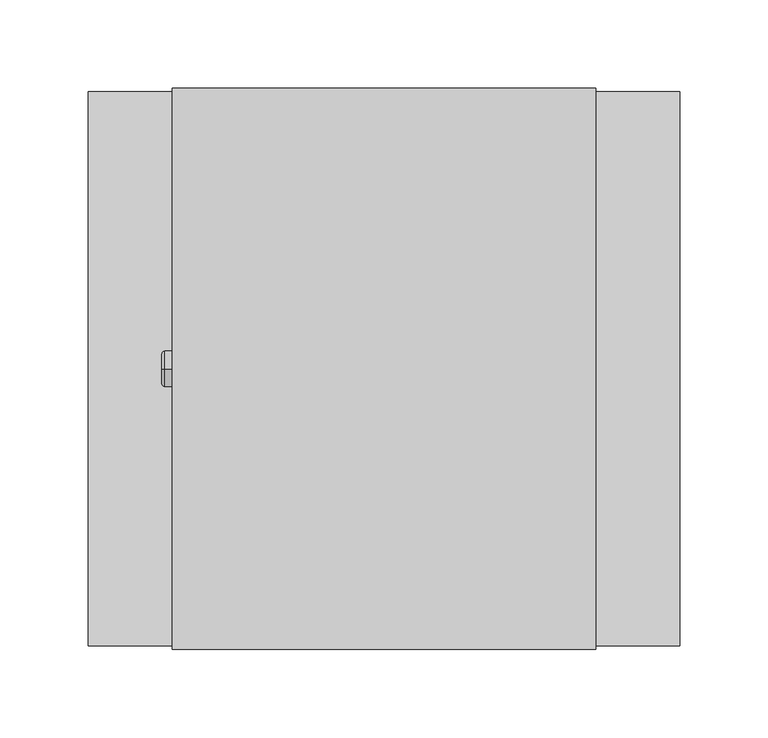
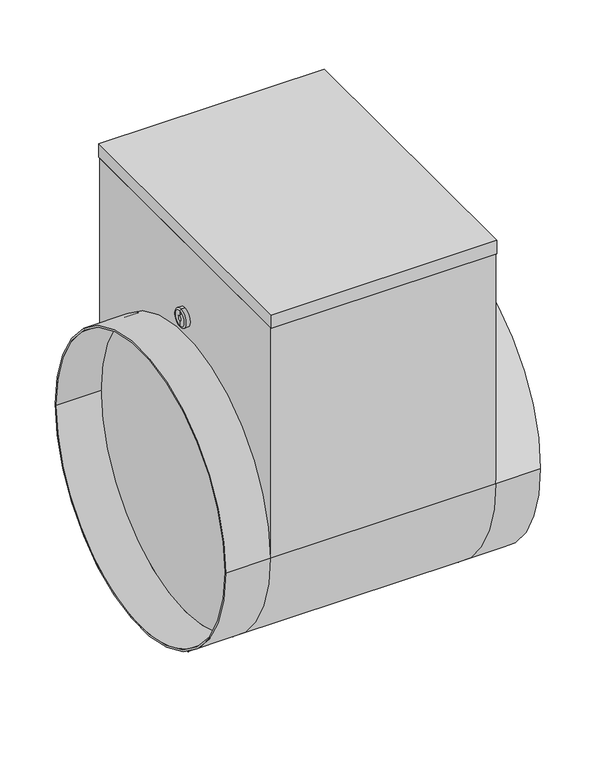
"""IFC4 building model written with IfcOpenShell, lengths in millimetres: proxy geometry, СВ_ВоздухонагревательЭлектрический_КанальныйКруглый_DN100-315_SKH-E : SKH-E-315/6."""

from ifc_helpers import new_model, si_unit, point, frame, origin, place, context, project, spatial, polyline, circle_curve, ellipse_curve, trimmed, outline, extrude, source, transform, mapped, element, save
from ifc_brep_helpers import plane_surface, cylinder_surface, revolved_surface, advanced_brep


def mechanical_equipment_239ba97e(model_context):
    return source(origin(), model_context, "Body", "SolidModel", [
        extrude(outline(polyline([(120.0, -159.0), (-120.0, -159.0), (-120.0, 159.0), (120.0, 159.0), (120.0, -159.0)])), frame((0.0, 0.0, 260.0), z_axis=(0.0, 0.0, 1.0), x_axis=(1.0, 0.0, 0.0)), (0.0, 0.0, 1.0), 15.0),
        advanced_brep(
        [(-167.5, -157.0, 0.0), (-167.5, 157.0, 0.0), (-167.5, -155.0, 0.0), (-167.5, 155.0, 0.0), (-120.0, 155.0, 0.0), (-120.0, -155.0, 0.0), (-120.0, 157.0, 0.0), (-120.0, -157.0, 0.0), (120.0, -155.0, 0.0), (120.0, 155.0, 0.0), (120.0, -157.0, 260.0), (120.0, -157.0, 0.0), (120.0, 157.0, 0.0), (120.0, 157.0, 260.0), (-120.0, -157.0, 260.0), (-120.0, 157.0, 260.0), (167.5, -157.0, 0.0), (167.5, 157.0, 0.0), (167.5, -155.0, 0.0), (167.5, 155.0, 0.0)],
        [
            (0, 1, circle_curve(frame((-167.5, 0.0, 0.0), z_axis=(-1.0, 0.0, 0.0), x_axis=(0.0, 1.0, 0.0)), 157.0)),
            (1, 0, circle_curve(frame((-167.5, 0.0, 0.0), z_axis=(-1.0, 0.0, 0.0), x_axis=(0.0, 1.0, 0.0)), 157.0)),
            (2, 3, circle_curve(frame((-167.5, 0.0, 0.0), z_axis=(1.0, 0.0, 0.0), x_axis=(0.0, 1.0, 0.0)), 155.0)),
            (3, 2, circle_curve(frame((-167.5, 0.0, 0.0), z_axis=(1.0, 0.0, 0.0), x_axis=(0.0, 1.0, 0.0)), 155.0)),
            (3, 4),
            (4, 5, circle_curve(frame((-120.0, 0.0, 0.0), z_axis=(1.0, 0.0, 0.0), x_axis=(0.0, 1.0, 0.0)), 155.0)),
            (5, 2),
            (5, 4, circle_curve(frame((-120.0, 0.0, 0.0), z_axis=(1.0, 0.0, 0.0), x_axis=(0.0, 1.0, 0.0)), 155.0)),
            (1, 6),
            (6, 7, circle_curve(frame((-120.0, 0.0, 0.0), z_axis=(-1.0, 0.0, 0.0), x_axis=(0.0, 1.0, 0.0)), 157.0)),
            (7, 0),
            (7, 6, circle_curve(frame((-120.0, 0.0, 0.0), z_axis=(-1.0, 0.0, 0.0), x_axis=(0.0, 1.0, 0.0)), 157.0)),
            (8, 9, circle_curve(frame((120.0, 0.0, 0.0), z_axis=(1.0, 0.0, 0.0), x_axis=(0.0, 1.0, 0.0)), 155.0)),
            (9, 8, circle_curve(frame((120.0, 0.0, 0.0), z_axis=(1.0, 0.0, 0.0), x_axis=(0.0, 1.0, 0.0)), 155.0)),
            (10, 11),
            (11, 12, circle_curve(frame((120.0, 0.0, 0.0), z_axis=(-1.0, 0.0, 0.0), x_axis=(0.0, 1.0, 0.0)), 157.0)),
            (12, 13),
            (13, 10),
            (7, 14),
            (14, 15),
            (15, 6),
            (6, 12),
            (12, 11, circle_curve(frame((120.0, 0.0, 0.0), z_axis=(-1.0, 0.0, 0.0), x_axis=(0.0, 1.0, 0.0)), 157.0)),
            (11, 7),
            (16, 17, circle_curve(frame((167.5, 0.0, 0.0), z_axis=(1.0, 0.0, 0.0), x_axis=(0.0, 1.0, 0.0)), 157.0)),
            (17, 16, circle_curve(frame((167.5, 0.0, 0.0), z_axis=(1.0, 0.0, 0.0), x_axis=(0.0, 1.0, 0.0)), 157.0)),
            (18, 19, circle_curve(frame((167.5, 0.0, 0.0), z_axis=(-1.0, 0.0, 0.0), x_axis=(0.0, 1.0, 0.0)), 155.0)),
            (19, 18, circle_curve(frame((167.5, 0.0, 0.0), z_axis=(-1.0, 0.0, 0.0), x_axis=(0.0, 1.0, 0.0)), 155.0)),
            (18, 8),
            (9, 19),
            (16, 11),
            (12, 17),
            (10, 14),
            (15, 13),
        ],
        [
            plane_surface(frame((-167.5, 155.0, 0.0), z_axis=(-1.0, 0.0, 0.0), x_axis=(0.0, 0.0, 1.0))),
            revolved_surface(polyline([(-167.5, 155.0, 0.0), (-120.0, 155.0, 0.0)]), (-167.5, 0.0, 0.0), (-1.0, 0.0, 0.0)),
            cylinder_surface(frame((0.0, 0.0, 0.0), z_axis=(1.0, 0.0, 0.0), x_axis=(0.0, 1.0, 0.0)), 157.0),
            plane_surface(frame((120.0, 157.0, 0.0), z_axis=(1.0, 0.0, 0.0), x_axis=(0.0, -1.0, 0.0))),
            plane_surface(frame((-120.0, 157.0, 0.0), z_axis=(-1.0, 0.0, 0.0), x_axis=(0.0, 1.0, 0.0))),
            cylinder_surface(frame((-120.0, 0.0, 0.0), z_axis=(1.0, 0.0, 0.0), x_axis=(0.0, 1.0, 0.0)), 157.0),
            plane_surface(frame((167.5, 155.0, 0.0), z_axis=(1.0, 0.0, 0.0), x_axis=(0.0, 0.0, -1.0))),
            revolved_surface(polyline([(120.0, 155.0, 0.0), (167.5, 155.0, 0.0)]), (120.0, 0.0, 0.0), (-1.0, 0.0, 0.0)),
            plane_surface(frame((-120.0, -157.0, 260.0), z_axis=(0.0, -1.0, 0.0), x_axis=(-1.0, 0.0, 0.0))),
            plane_surface(frame((-120.0, 157.0, 260.0), z_axis=(0.0, 1.0, 0.0), x_axis=(1.0, 0.0, 0.0))),
            plane_surface(frame((120.0, -157.0, 260.0), z_axis=(0.0, 0.0, 1.0), x_axis=(0.0, 1.0, 0.0))),
        ],
        [
            (0, [[1, 2], [3, 4]]),
            (1, [[-4, 5, 6, 7]]),
            (1, [[-3, -7, 8, -5]]),
            (2, [[-2, 9, 10, 11]]),
            (2, [[-1, -11, 12, -9]]),
            (3, [[13, 14]]),
            (3, [[15, 16, 17, 18]]),
            (4, [[-8, -6]]),
            (4, [[19, 20, 21, -12]]),
            (5, [[-10, 22, 23, 24]]),
            (6, [[25, 26], [27, 28]]),
            (7, [[-27, 29, -14, 30]]),
            (7, [[-28, -30, -13, -29]]),
            (2, [[-25, 31, -23, 32]]),
            (2, [[-26, -32, -16, -31]]),
            (8, [[33, -19, -24, -15]]),
            (9, [[-17, -22, -21, 34]]),
            (10, [[-33, -18, -34, -20]]),
        ],
    ),
        advanced_brep(
        [(-124.2840134, 0.0, 167.0), (-124.2840134, 0.0, 187.0), (-120.0, 0.0, 187.0), (-120.0, 0.0, 167.0), (-125.7459771, 0.0, 168.4619637), (-125.7459771, 0.0, 185.5380363), (-125.7459771, 0.0, 173.8948071), (-125.7459771, 0.0, 180.1051929), (-123.4138357, 0.0, 173.8948071), (-123.4138357, 0.0, 180.1051929), (-123.4138357, 0.0, 177.0), (-120.0, 0.0, 177.0)],
        [
            (0, 1, circle_curve(frame((-124.2840134, 0.0, 177.0), z_axis=(1.0, 0.0, 0.0), x_axis=(0.0, 0.0, 1.0)), 10.0)),
            (1, 2),
            (2, 3, circle_curve(frame((-120.0, 0.0, 177.0), z_axis=(-1.0, 0.0, 0.0), x_axis=(0.0, 0.0, 1.0)), 10.0)),
            (3, 0),
            (1, 0, circle_curve(frame((-124.2840134, 0.0, 177.0), z_axis=(1.0, 0.0, 0.0), x_axis=(0.0, 0.0, 1.0)), 10.0)),
            (3, 2, circle_curve(frame((-120.0, 0.0, 177.0), z_axis=(-1.0, 0.0, 0.0), x_axis=(0.0, 0.0, 1.0)), 10.0)),
            (4, 5, circle_curve(frame((-125.7459771, 0.0, 177.0), z_axis=(1.0, 0.0, 0.0), x_axis=(0.0, 0.0, 1.0)), 8.5380363)),
            (5, 1, circle_curve(frame((-124.2840134, 0.0, 185.5380363), z_axis=(0.0, 1.0, 0.0), x_axis=(1.0, 0.0, 0.0)), 1.4619637)),
            (0, 4, circle_curve(frame((-124.2840134, 0.0, 168.4619637), z_axis=(0.0, 1.0, 0.0), x_axis=(1.0, 0.0, 0.0)), 1.4619637)),
            (5, 4, circle_curve(frame((-125.7459771, 0.0, 177.0), z_axis=(1.0, 0.0, 0.0), x_axis=(0.0, 0.0, 1.0)), 8.5380363)),
            (6, 7, circle_curve(frame((-125.7459771, 0.0, 177.0), z_axis=(1.0, 0.0, 0.0), x_axis=(0.0, 0.0, 1.0)), 3.1051929)),
            (7, 5),
            (4, 6),
            (7, 6, circle_curve(frame((-125.7459771, 0.0, 177.0), z_axis=(1.0, 0.0, 0.0), x_axis=(0.0, 0.0, 1.0)), 3.1051929)),
            (8, 9, circle_curve(frame((-123.4138357, 0.0, 177.0), z_axis=(1.0, 0.0, 0.0), x_axis=(0.0, 0.0, 1.0)), 3.1051929)),
            (9, 7),
            (6, 8),
            (9, 8, circle_curve(frame((-123.4138357, 0.0, 177.0), z_axis=(1.0, 0.0, 0.0), x_axis=(0.0, 0.0, 1.0)), 3.1051929)),
            (10, 9),
            (8, 10),
            (2, 11),
            (11, 3),
        ],
        [
            cylinder_surface(frame((-155.6635229, 0.0, 177.0), z_axis=(-1.0, 0.0, 0.0), x_axis=(0.0, 0.0, 1.0)), 10.0),
            revolved_surface(trimmed(ellipse_curve(frame((-124.2840134, 0.0, 185.5380363), z_axis=(0.0, -1.0, 0.0), x_axis=(1.0, 0.0, 0.0)), 1.4619637, 1.4619637), [point((-124.2840134, 0.0, 187.0))], [point((-125.7459771, 0.0, 185.5380363))], True, "CARTESIAN"), (-155.6635229, 0.0, 177.0), (-1.0, 0.0, 0.0)),
            plane_surface(frame((-125.7459771, 0.0, 177.0), z_axis=(-1.0, 0.0, 0.0), x_axis=(0.0, 0.0, 1.0))),
            revolved_surface(polyline([(-125.7459771, 0.0, 180.1051929), (-123.4138357, 0.0, 180.1051929)]), (-155.6635229, 0.0, 177.0), (-1.0, 0.0, 0.0)),
            plane_surface(frame((-123.4138357, 0.0, 177.0), z_axis=(-1.0, 0.0, 0.0), x_axis=(0.0, 0.0, 1.0))),
            plane_surface(frame((-120.0, 0.0, 177.0), z_axis=(1.0, 0.0, 0.0), x_axis=(0.0, 0.0, 1.0))),
        ],
        [
            (0, [[1, 2, 3, 4]]),
            (0, [[5, -4, 6, -2]]),
            (1, [[7, 8, -1, 9]]),
            (1, [[10, -9, -5, -8]]),
            (2, [[11, 12, -7, 13]]),
            (2, [[14, -13, -10, -12]]),
            (3, [[15, 16, -11, 17]]),
            (3, [[18, -17, -14, -16]]),
            (4, [[19, -15, 20]]),
            (4, [[-20, -18, -19]]),
            (5, [[-3, 21, 22]]),
            (5, [[-6, -22, -21]]),
        ],
    ),
    ])


if __name__ == "__main__":
    model = new_model("IFC4")
    model_context = context("Model", 3, world=origin())
    ifc_project = project(units=[si_unit("LENGTHUNIT", "METRE", prefix="MILLI")], contexts=[model_context])
    site = spatial("IfcSite", under=ifc_project)
    building = spatial("IfcBuilding", under=site)
    placement = place(None, origin())
    mechanical_equipment_shape = mechanical_equipment_239ba97e(model_context)
    element("IfcBuildingElementProxy", 1, Name="СВ_ВоздухонагревательЭлектрический_КанальныйКруглый_DN100-315_SKH-E : SKH-E-315/6", ObjectType="СВ_ВоздухонагревательЭлектрический_КанальныйКруглый_DN100-315_SKH-E : SKH-E-315/6", at=placement, inside=building, context=model_context, shape_type="MappedRepresentation", body=[
        mapped(mechanical_equipment_shape, transform((0.0, 0.0, 0.0), x_axis=(1.0, 0.0, 0.0), y_axis=(0.0, 1.0, 0.0), z_axis=(0.0, 0.0, 1.0))),
    ])
    save(model, "model.ifc")
